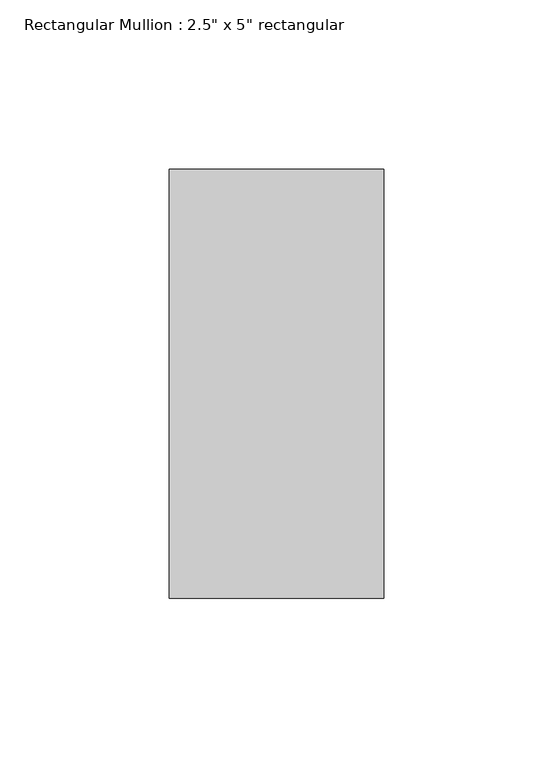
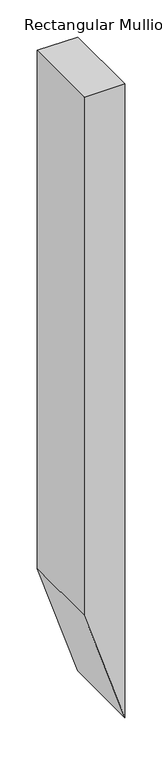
"""IFC4 building model written with IfcOpenShell, lengths in millimetres: member geometry."""

from ifc_helpers import new_model, si_unit, frame, origin, place, context, project, spatial, polyline, outline, extrude, source, transform, mapped, element, save


def member_dc06a31d(model_context):
    return source(origin(), model_context, "Body", "SweptSolid", [
        extrude(outline(polyline([(0.0, 31.75), (0.0, -31.75), (-854.6331378, -31.75), (-1045.1331378, 31.75), (0.0, 31.75)])), frame((0.0, -63.5, 0.0), z_axis=(0.0, 1.0, 0.0), x_axis=(0.0, 0.0, 1.0)), (0.0, 0.0, 1.0), 127.0),
    ])


if __name__ == "__main__":
    model = new_model("IFC4")
    model_context = context("Model", 3, world=origin())
    ifc_project = project(units=[si_unit("LENGTHUNIT", "METRE", prefix="MILLI")], contexts=[model_context])
    site = spatial("IfcSite", under=ifc_project)
    building = spatial("IfcBuilding", under=site)
    placement = place(None, origin())
    member_shape = member_dc06a31d(model_context)
    element("IfcMember", 1, ObjectType="Rectangular Mullion : 2.5\" x 5\" rectangular", at=placement, inside=building, context=model_context, shape_type="MappedRepresentation", body=[
        mapped(member_shape, transform((0.0, 0.0, 0.0), x_axis=(1.0, 0.0, 0.0), y_axis=(0.0, 1.0, 0.0), z_axis=(0.0, 0.0, 1.0))),
    ])
    save(model, "model.ifc")
